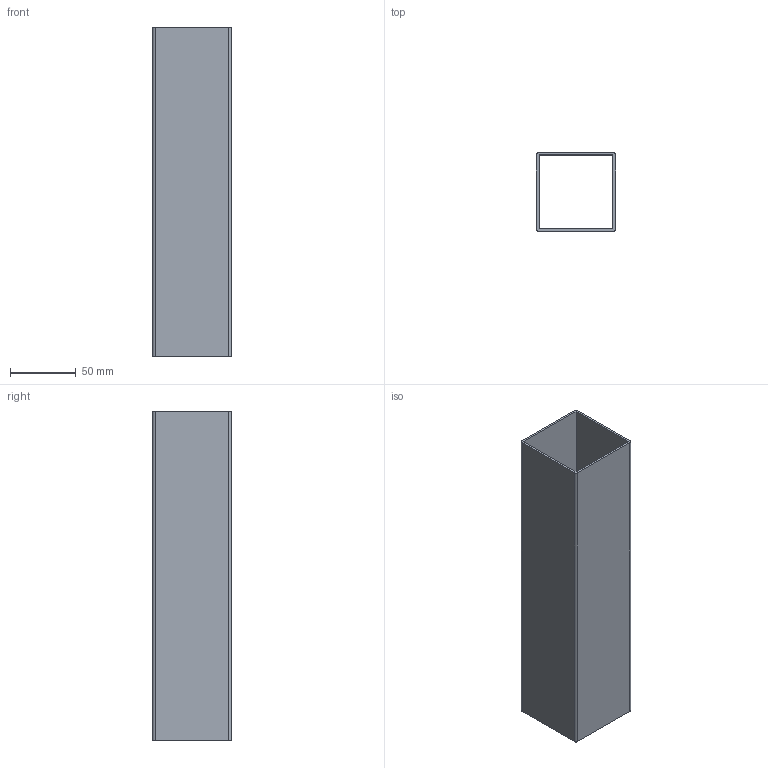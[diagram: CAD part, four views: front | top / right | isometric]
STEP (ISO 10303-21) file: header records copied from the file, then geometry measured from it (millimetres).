
FILE_DESCRIPTION(/* description */ (''),/* implementation_level */ '2;1');
FILE_NAME(/* name */ '500-1015-01.stp',/* time_stamp */ '2022-09-16T07:37:19+02:00',/* author */ ('Mathias.Dore'),/* organization */ (''),/* preprocessor_version */ 'ST-DEVELOPER v19.2',/* originating_system */ 'Autodesk Inventor 2023',/* authorisation */ '');
FILE_SCHEMA (('AUTOMOTIVE_DESIGN { 1 0 10303 214 3 1 1 }'));
Length unit declared in the file: millimetre
Products named in the file (1): 500-1015-01
Bounding box: 60 x 60 x 250 mm (x, y, z)
Volume: 115141.6 mm3; surface area: 116062.7 mm2
Topology: 1 solids, 1 shells, 14 faces, 36 edges, 24 vertices
Faces by surface type: plane 10, cylinder 4
Entity records: 475 total; most frequent: CARTESIAN_POINT 75, DIRECTION 74, ORIENTED_EDGE 72, EDGE_CURVE 36, LINE 28, VECTOR 28, VERTEX_POINT 24, AXIS2_PLACEMENT_3D 23
